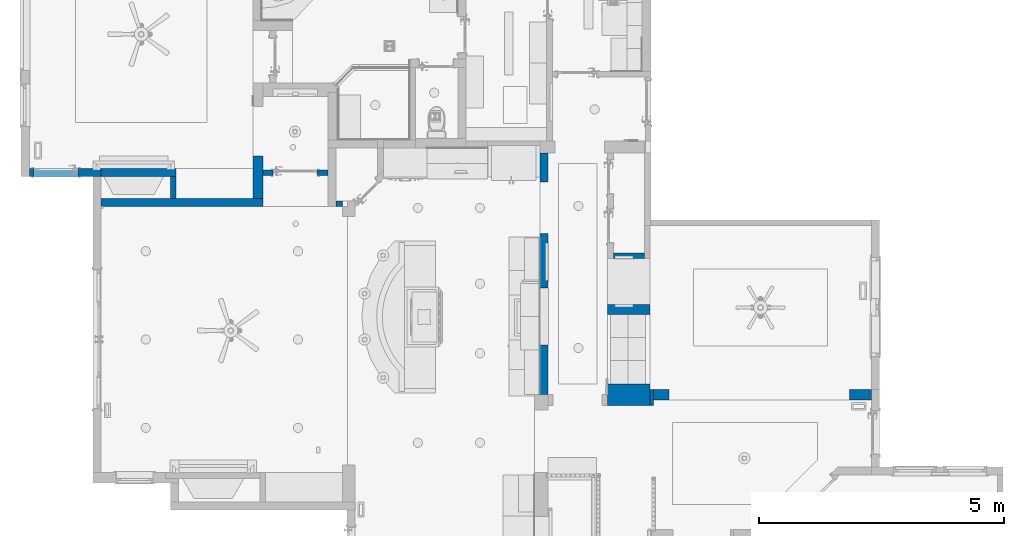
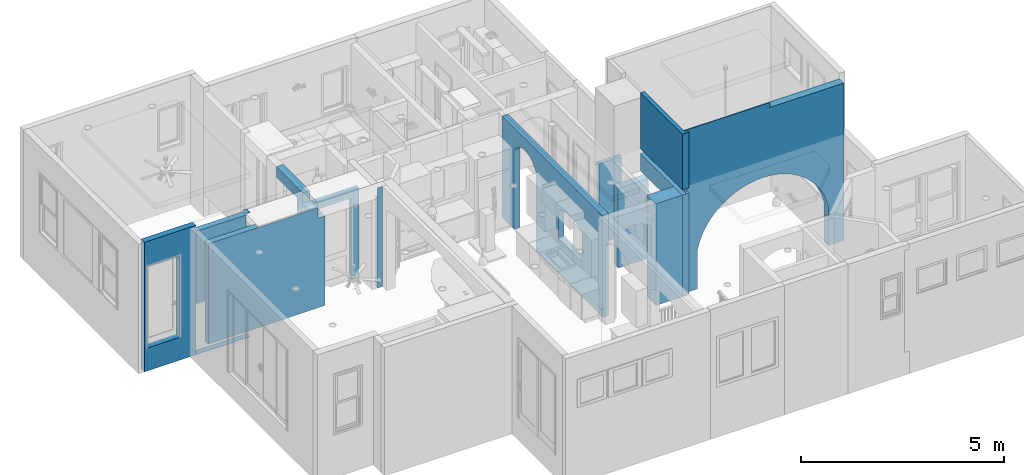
# One storey, part 7 of 77: 14 walls.
"""IFC2X3 building model written with IfcOpenShell, lengths in inches."""

from ifc_helpers import new_model, entity, si_unit, converted_unit, derived_unit, money_unit, direction, frame, origin_with_axes, place, context, subcontext, project, spatial, faceted_brep, material, type_object, element, save


model = new_model("IFC2X3")

# Units and contexts
model_context = context("Model", 3, precision=0.000393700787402, world=origin_with_axes(), true_north=direction((0.0, 1.0)))
body_context = subcontext(model_context, "Body", "Model", "MODEL_VIEW")
ifc_project = project(units=[converted_unit("LENGTHUNIT", "INCH", entity("IfcPositiveLengthMeasure", 0.0254), si_unit("LENGTHUNIT", "METRE"), dimensions=[1, 0, 0, 0, 0, 0, 0]), converted_unit("AREAUNIT", "SQUARE_FOOT", entity("IfcPositiveLengthMeasure", 0.09290304), si_unit("AREAUNIT", "SQUARE_METRE"), dimensions=[2, 0, 0, 0, 0, 0, 0]), si_unit("PLANEANGLEUNIT", "RADIAN"), si_unit("SOLIDANGLEUNIT", "STERADIAN"), money_unit("USD"), converted_unit("TIMEUNIT", "Year", entity("IfcTimeMeasure", 31556926.0), si_unit("TIMEUNIT", "SECOND"), dimensions=[0, 0, 1, 0, 0, 0, 0]), si_unit("MASSUNIT", "GRAM", prefix="KILO"), si_unit("THERMODYNAMICTEMPERATUREUNIT", "DEGREE_CELSIUS"), si_unit("LUMINOUSINTENSITYUNIT", "LUMEN"), si_unit("ENERGYUNIT", "JOULE", prefix="MEGA"), derived_unit("THERMALCONDUCTANCEUNIT", [(si_unit("POWERUNIT", "WATT"), 1), (si_unit("LENGTHUNIT", "METRE"), -1), (si_unit("THERMODYNAMICTEMPERATUREUNIT", "KELVIN"), -1)]), derived_unit("SPECIFICHEATCAPACITYUNIT", [(si_unit("ENERGYUNIT", "JOULE"), 1), (si_unit("MASSUNIT", "GRAM", prefix="KILO"), -1), (si_unit("THERMODYNAMICTEMPERATUREUNIT", "KELVIN"), -1)]), derived_unit("MASSDENSITYUNIT", [(si_unit("MASSUNIT", "GRAM", prefix="KILO"), 1), (si_unit("VOLUMEUNIT", "CUBIC_METRE"), -1)])], contexts=[model_context])

# Site, building, storey
site_placement = place(None, origin_with_axes())
site = spatial("IfcSite", under=ifc_project, at=site_placement, Name="Site", CompositionType="ELEMENT")
building_placement = place(site_placement, origin_with_axes())
building = spatial("IfcBuilding", under=site, at=building_placement, Name="Building", CompositionType="ELEMENT")
storey_placement = place(building_placement, frame((0.0, 0.0, 127.952755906), z_axis=(0.0, 0.0, 1.0), x_axis=(1.0, 0.0, 0.0)))
storey = spatial("IfcBuildingStorey", under=building, at=storey_placement, Name="Second Floor", CompositionType="ELEMENT", Elevation=127.953)

# Walls
ifc_material = material(Name="Generic - Structural")
wall_type_1 = type_object("IfcWallType", Name="Generic - Structural 205", PredefinedType="NOTDEFINED")
wall_1_placement = place(storey_placement, frame((406.739643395, 441.90717231, 0.0), z_axis=(0.0, 0.0, 1.0), x_axis=(2.1334660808e-08, -1.0, 0.0)))
element("IfcWall", 1, at=wall_1_placement, inside=storey, type_object=wall_type_1, material=ifc_material, Name="SW - 128", context=body_context, shape_type="Brep", body=[
    faceted_brep([(39.9416809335, 8.07086816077, 0.0157480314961), (39.9416809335, 8.07086577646, 105.905511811), (1.72189192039e-07, 8.07086614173, 105.905511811), (1.72189192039e-07, 8.07086614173, 118.11023622), (51.0952498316, 8.07086614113, 118.11023622), (51.0952498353, 8.07086614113, 105.905511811), (74.0343389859, 8.07086988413, 105.905511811), (74.0343389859, 8.07086988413, 0.0157480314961), (39.9416807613, -8.52142223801e-07, 0.0157480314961), (39.9416807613, 7.2738196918e-07, 105.905511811), (0.0, 0.0, 105.905511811), (0.0, 0.0, 118.11023622), (51.0675014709, -1.08950783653e-06, 118.11023622), (51.0675014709, 4.9001635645e-07, 105.905511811), (74.0355896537, 4.29907518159e-06, 105.905511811), (74.035589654, -1.57952419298e-06, 0.0157480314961)], [[[0, 1, 2, 3, 4, 5, 6, 7]], [[1, 0, 8, 9]], [[10, 2, 1, 9]], [[2, 10, 11, 3]], [[4, 3, 11, 12]], [[4, 12, 13, 5]], [[6, 5, 13, 14]], [[6, 14, 15, 7]], [[8, 0, 7, 15]], [[9, 8, 15, 14, 13, 12, 11, 10]]]),
])
wall_2_placement = place(storey_placement, frame((691.989643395, 282.41001385, 0.0), z_axis=(0.0, 0.0, 1.0), x_axis=(1.0, 0.0, 0.0)))
element("IfcWall", 2, at=wall_2_placement, inside=storey, type_object=wall_type_1, material=ifc_material, Name="SW - 018", context=body_context, shape_type="Brep", body=[
    faceted_brep([(34.0, -8.07086614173, 94.094488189), (34.0, -8.07086614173, 0.0157480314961), (34.0, 0.0, 0.0157480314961), (34.0, 0.0, 94.094488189), (0.0, -8.07086614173, 94.094488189), (0.0, -8.07086614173, 0.0157480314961), (0.0, 0.0, 0.0157480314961), (0.0, 0.0, 94.094488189)], [[[0, 1, 2, 3]], [[4, 5, 1, 0]], [[5, 6, 2, 1]], [[3, 2, 6, 7]], [[7, 4, 0, 3]], [[7, 6, 5, 4]]]),
])
wall_type_2 = type_object("IfcWallType", Name="Generic - Structural 115", PredefinedType="NOTDEFINED")
wall_3_placement = place(storey_placement, frame((344.761453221, 367.877480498, 0.0), z_axis=(0.0, 0.0, 1.0), x_axis=(-0.000154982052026, 0.99999998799, 0.0)))
element("IfcWall", 3, at=wall_3_placement, inside=storey, type_object=wall_type_2, material=ifc_material, Name="SW - 119", context=body_context, shape_type="Brep", body=[
    faceted_brep([(0.0, 4.52755905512, 105.905511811), (0.0, 4.52755905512, 0.0157480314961), (0.0, 0.0, 0.0157480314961), (0.0, 0.0, 105.905511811), (17.5303937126, 4.52755905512, 105.905511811), (17.5303937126, 4.52755905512, 0.0157480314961), (17.5296920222, 1.25044331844e-10, 0.0157480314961), (17.5296920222, 1.25044331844e-10, 105.905511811)], [[[0, 1, 2, 3]], [[4, 5, 1, 0]], [[5, 6, 2, 1]], [[3, 2, 6, 7]], [[0, 3, 7, 4]], [[7, 6, 5, 4]]]),
])
wall_4_placement = place(storey_placement, frame((466.989643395, 361.379613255, 0.0), z_axis=(0.0, 0.0, 1.0), x_axis=(1.0, 0.0, 0.0)))
element("IfcWall", 4, at=wall_4_placement, inside=storey, type_object=wall_type_2, material=ifc_material, Name="SW - 117", context=body_context, shape_type="Brep", body=[
    faceted_brep([(6.5, 4.52755905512, 0.0157480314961), (6.50000148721, 4.52755942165, 105.905511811), (11.817863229, 4.52755942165, 105.905511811), (11.817863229, 4.52755905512, 0.0157480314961), (6.5, 0.0, 0.0157480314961), (6.49999998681, 0.000292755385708, 105.905511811), (11.817863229, 0.000532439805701, 105.905511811), (11.817863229, 0.000532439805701, 118.5), (11.817863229, 0.0, 118.5), (11.817863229, 0.0, 0.0157480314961), (6.49999998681, 0.000292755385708, 118.5)], [[[0, 1, 2, 3]], [[4, 5, 1, 0]], [[5, 6, 2, 1]], [[2, 6, 7, 8, 9, 3]], [[4, 0, 3, 9]], [[8, 10, 5, 4, 9]], [[5, 10, 7, 6]], [[8, 7, 10]]]),
])
wall_5_placement = place(storey_placement, frame((691.987424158, 319.40717231, 0.0), z_axis=(0.0, 0.0, 1.0), x_axis=(0.999999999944, -1.05423358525e-05, 0.0)))
element("IfcWall", 5, at=wall_5_placement, inside=storey, type_object=wall_type_2, material=ifc_material, Name="SW - 015", context=body_context, shape_type="Brep", body=[
    faceted_brep([(29.5109208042, 0.0, 94.094488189), (29.5109208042, 0.0, 0.0157480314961), (29.5111116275, 4.52755905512, 0.0157480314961), (29.5111116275, 4.52755905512, 94.094488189), (4.52755905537, 0.0, 94.094488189), (4.52755905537, 0.0, 0.0157480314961), (4.52751132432, 4.52755905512, 0.0157480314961), (4.52751132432, 4.52755905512, 94.094488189)], [[[0, 1, 2, 3]], [[4, 5, 1, 0]], [[5, 6, 2, 1]], [[3, 2, 6, 7]], [[4, 0, 3, 7]], [[7, 6, 5, 4]]]),
])
wall_type_3 = type_object("IfcWallType", Name="Generic - Structural 215", PredefinedType="NOTDEFINED")
wall_6_placement = place(storey_placement, frame((728.989643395, 214.072267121, 0.0), z_axis=(0.0, 0.0, 1.0), x_axis=(0.999999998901, 4.687956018e-05, 0.0)))
element("IfcWall", 6, at=wall_6_placement, inside=storey, type_object=wall_type_3, material=ifc_material, Name="SW - 092", context=body_context, shape_type="Brep", body=[
    faceted_brep([(152.89009665, -8.46456692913, 62.1237879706), (155.952210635, -8.46456692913, 54.1636453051), (158.083793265, -8.46456692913, 45.905511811), (158.083793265, -8.46456692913, 0.0157480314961), (174.957662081, -8.46456692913, 0.0157480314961), (174.957662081, -8.46456692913, 0.0), (175.230181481, -8.46456692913, 0.0), (175.230181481, -8.46456692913, 125.984251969), (175.228741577, -8.46456692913, 125.984251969), (175.228741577, -8.46456692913, 186.023622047), (92.8846947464, -8.46456692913, 186.023622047), (92.8846947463, -8.46456692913, 191.929133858), (0.0, -8.46456692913, 191.929133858), (0.0, -8.46456692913, 126.0), (92.8846947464, -8.46456692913, 126.0), (92.8846947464, -8.46456692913, 120.094488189), (0.0, -8.46456692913, 120.094488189), (0.0, -8.46456692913, 0.0157480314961), (12.020801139, -8.46456692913, 0.0157480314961), (12.020801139, -8.46456692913, 45.905511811), (14.1523837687, -8.46456692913, 54.1636453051), (17.2144977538, -8.46456692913, 62.1237879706), (21.1669541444, -8.46456692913, 69.6814663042), (25.9578786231, -8.46456692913, 76.7374889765), (31.524392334, -8.46456692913, 83.1992486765), (37.7934371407, -8.46456692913, 88.9819375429), (44.6827344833, -8.46456692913, 94.009660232), (52.1018652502, -8.46456692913, 98.2164300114), (59.9534564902, -8.46456692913, 101.547034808), (68.1344593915, -8.46456692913, 103.957761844), (76.5375017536, -8.46456692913, 105.416971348), (85.052297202, -8.46456692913, 105.905511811), (93.5670926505, -8.46456692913, 105.416971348), (101.970135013, -8.46456692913, 103.957761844), (110.151137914, -8.46456692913, 101.547034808), (118.002729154, -8.46456692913, 98.2164300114), (125.421859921, -8.46456692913, 94.009660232), (132.311157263, -8.46456692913, 88.9819375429), (138.58020207, -8.46456692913, 83.1992486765), (144.146715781, -8.46456692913, 76.7374889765), (148.93764026, -8.46456692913, 69.6814663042), (152.89009665, 0.0, 62.1237879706), (155.952210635, 0.0, 54.1636453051), (158.083793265, 0.0, 45.905511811), (158.083793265, 0.0, 0.0157480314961), (174.958058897, 1.01755874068e-10, 0.0157480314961), (174.958058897, 0.0, 0.0), (175.228742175, 0.0, 0.0), (175.228742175, 1.01685938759e-10, 125.984251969), (175.22874163, 0.0, 186.023622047), (0.0, 0.0, 186.023622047), (0.0, -8.45651257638, 186.023622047), (0.0, -8.45651257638, 191.929133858), (0.0, -8.45651257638, 126.0), (0.0, 0.0, 0.0157480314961), (0.0, -8.45651257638, 120.094488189), (12.020801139, 0.0, 0.0157480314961), (12.020801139, 0.0, 45.905511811), (14.1523837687, 0.0, 54.1636453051), (17.2144977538, 0.0, 62.1237879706), (21.1669541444, 0.0, 69.6814663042), (25.9578786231, 0.0, 76.7374889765), (31.524392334, 0.0, 83.1992486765), (37.7934371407, 0.0, 88.9819375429), (44.6827344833, 0.0, 94.009660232), (52.1018652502, 0.0, 98.2164300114), (59.9534564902, 0.0, 101.547034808), (68.1344593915, 0.0, 103.957761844), (76.5375017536, 0.0, 105.416971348), (85.052297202, 0.0, 105.905511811), (93.5670926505, 0.0, 105.416971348), (101.970135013, 0.0, 103.957761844), (110.151137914, 0.0, 101.547034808), (118.002729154, 0.0, 98.2164300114), (125.421859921, 0.0, 94.009660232), (132.311157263, 0.0, 88.9819375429), (138.58020207, 0.0, 83.1992486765), (144.146715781, 0.0, 76.7374889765), (148.93764026, 0.0, 69.6814663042)], [[[0, 1, 2, 3, 4, 5, 6, 7, 8, 9, 10, 11, 12, 13, 14, 15, 16, 17, 18, 19, 20, 21, 22, 23, 24, 25, 26, 27, 28, 29, 30, 31, 32, 33, 34, 35, 36, 37, 38, 39, 40]], [[1, 0, 41, 42]], [[2, 1, 42, 43]], [[3, 2, 43, 44]], [[3, 44, 45, 4]], [[45, 46, 5, 4]], [[5, 46, 47, 6]], [[47, 48, 7, 6]], [[48, 8, 7]], [[49, 9, 8, 48]], [[9, 49, 50, 51, 10]], [[52, 11, 10, 51]], [[12, 11, 52]], [[53, 13, 12, 52, 51, 50, 54, 17, 16, 55]], [[53, 14, 13]], [[15, 14, 53, 55]], [[55, 16, 15]], [[56, 18, 17, 54]], [[19, 18, 56, 57]], [[20, 19, 57, 58]], [[21, 20, 58, 59]], [[22, 21, 59, 60]], [[23, 22, 60, 61]], [[24, 23, 61, 62]], [[25, 24, 62, 63]], [[26, 25, 63, 64]], [[27, 26, 64, 65]], [[28, 27, 65, 66]], [[29, 28, 66, 67]], [[30, 29, 67, 68]], [[31, 30, 68, 69]], [[32, 31, 69, 70]], [[33, 32, 70, 71]], [[34, 33, 71, 72]], [[35, 34, 72, 73]], [[36, 35, 73, 74]], [[37, 36, 74, 75]], [[38, 37, 75, 76]], [[39, 38, 76, 77]], [[40, 39, 77, 78]], [[0, 40, 78, 41]], [[57, 56, 54, 50, 49, 48, 47, 46, 45, 44, 43, 42, 41, 78, 77, 76, 75, 74, 73, 72, 71, 70, 69, 68, 67, 66, 65, 64, 63, 62, 61, 60, 59, 58]]]),
])
wall_type_4 = type_object("IfcWallType", Name="Generic Wall 6.5\" 165", PredefinedType="NOTDEFINED")
wall_7_placement = place(storey_placement, frame((344.75772905, 391.90717231, -27.0), z_axis=(0.0, 0.0, 1.0), x_axis=(-1.0, 0.0, 0.0)))
element("IfcWall", 7, at=wall_7_placement, inside=storey, type_object=wall_type_4, material=ifc_material, Name="SW - 120", context=body_context, shape_type="Brep", body=[
    faceted_brep([(7.3889302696, 0.0, 60.0), (60.2680856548, 0.0, 60.0), (60.2680856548, -1.32635851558e-06, 145.503937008), (4.51808672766, 7.90382530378e-05, 145.503937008), (4.51808672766, 7.90382530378e-05, 147.047244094), (0.0, 0.0, 147.047244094), (0.0, 0.0, 132.905511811), (0.0, 0.0, 27.0157480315), (7.3889302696, 0.0, 27.0157480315), (12.0180860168, 0.0, 81.0), (12.0180860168, 0.0, 132.968503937), (58.0810781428, 0.0, 132.968503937), (58.0810781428, 0.0, 81.0), (3.4608576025, -1.32635851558e-06, 72.303970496), (2.50716198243, -1.32635851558e-06, 72.7016164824), (1.4834038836, -1.32635851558e-06, 72.8415343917), (1.4834038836, -1.32635851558e-06, 73.8503937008), (3.92955300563, -1.32635851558e-06, 73.8503937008), (7.3889302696, 2.95734040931e-08, 69.1225848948), (7.3889302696, 2.95734040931e-08, 65.779519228), (6.65073947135, -1.32635851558e-06, 65.779519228), (6.55321137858, -1.32635851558e-06, 67.1452070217), (6.25739947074, -1.32635851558e-06, 68.4820354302), (5.7937654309, -1.32635851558e-06, 69.6747248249), (5.13726191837, -1.32635851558e-06, 70.7731180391), (4.38040161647, -1.32635851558e-06, 71.6276200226), (7.3889302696, 6.5, 60.0), (60.2680856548, 6.5, 60.0), (60.2680856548, 6.5, 145.503937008), (4.51808672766, 6.5, 145.503937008), (4.51808672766, 0.0247138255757, 145.503937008), (4.51808672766, 0.0247138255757, 146.881889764), (4.51808672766, 6.5, 146.881889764), (4.51808672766, 6.5, 147.047244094), (0.0, 6.5, 147.047244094), (0.0, 6.5, 146.881889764), (0.0, 0.0230347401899, 146.881889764), (0.0, 0.0230347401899, 132.905511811), (-0.00100738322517, 6.5, 132.905511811), (-0.00100738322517, 6.5, 27.0157480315), (7.3889302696, 6.5, 27.0157480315), (12.0180860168, 5.5, 81.0), (12.0180860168, 5.5, 132.968503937), (58.0810781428, 5.5, 132.968503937), (58.0810781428, 5.5, 81.0), (2.5071622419, 0.719657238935, 72.7016164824), (3.46085786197, 0.719656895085, 72.303970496), (1.48340414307, 0.719657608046, 72.8415343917), (1.48340414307, 0.719657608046, 73.8503937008), (3.9295532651, 0.719656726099, 73.8503937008), (7.38893052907, 0.719655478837, 69.1225848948), (7.38893052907, 0.719655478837, 65.779519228), (6.65073973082, 0.719655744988, 65.779519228), (6.55321163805, 0.719655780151, 67.1452070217), (6.25739973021, 0.719655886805, 68.4820354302), (5.79376569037, 0.719656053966, 69.6747248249), (5.13726217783, 0.719656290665, 70.7731180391), (4.38040187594, 0.719656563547, 71.6276200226), (0.0, 6.5, 132.905511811), (4.51808565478, 6.5, 132.905511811), (4.51808565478, 0.0247138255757, 132.905511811)], [[[0, 1, 2, 3, 4, 5, 6, 7, 8], [9, 10, 11, 12], [13, 14, 15, 16, 17, 18, 19, 20, 21, 22, 23, 24, 25]], [[0, 26, 27, 1]], [[1, 27, 28, 2]], [[29, 30, 3, 2, 28]], [[31, 32, 33, 4, 3, 30]], [[34, 5, 4, 33]], [[34, 35, 36, 37, 6, 5]], [[6, 38, 39, 7]], [[40, 8, 7, 39]], [[26, 0, 8, 40]], [[9, 41, 42, 10]], [[10, 42, 43, 11]], [[11, 43, 44, 12]], [[12, 44, 41, 9]], [[45, 14, 13, 46]], [[47, 15, 14, 45]], [[48, 16, 15, 47]], [[49, 17, 16, 48]], [[50, 18, 17, 49]], [[50, 51, 19, 18]], [[52, 20, 19, 51]], [[53, 21, 20, 52]], [[54, 22, 21, 53]], [[55, 23, 22, 54]], [[56, 24, 23, 55]], [[57, 25, 24, 56]], [[46, 13, 25, 57]], [[58, 59, 29, 28, 27, 26, 40, 39, 38]], [[59, 60, 30, 29]], [[36, 35, 32, 31]], [[35, 34, 33, 32]], [[37, 36, 31, 30, 60]], [[38, 6, 37, 60, 59, 58]], [[43, 42, 41, 44]], [[48, 47, 45, 46, 57, 56, 55, 54, 53, 52, 51, 50, 49]]]),
    faceted_brep([(60.2680856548, 0.0, 0.0), (60.2680856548, 0.0, 0.0472440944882), (0.0, 0.0, 0.0472440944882), (0.0, 0.0, 0.0), (60.2680856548, 6.5, 0.0), (60.2680856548, 6.5, 0.0472440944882), (0.0, 6.5, 0.0472440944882), (0.0, 6.5, 0.0)], [[[0, 1, 2, 3]], [[4, 5, 1, 0]], [[5, 6, 2, 1]], [[3, 2, 6, 7]], [[7, 4, 0, 3]], [[7, 6, 5, 4]]]),
])
wall_8_placement = place(storey_placement, frame((414.810514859, 367.872833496, 0.0), z_axis=(0.0, 0.0, 1.0), x_axis=(-0.99999998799, -0.00015498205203, 0.0)))
element("IfcWall", 8, at=wall_8_placement, inside=storey, type_object=wall_type_4, material=ifc_material, Name="SW - 118", context=body_context, shape_type="Brep", body=[
    faceted_brep([(130.477027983, 0.0, 118.5), (74.5708723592, 0.0, 118.5), (74.5708723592, 0.0, 105.905511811), (3.98309081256e-06, -6.1710916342e-10, 105.905511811), (0.0, 0.0, 0.0157480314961), (130.362809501, 0.0, 0.0157480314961), (130.362809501, 0.0, 0.0), (130.477027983, 0.0, 0.0), (8.07187183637, 6.46433123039, 118.5), (74.5718726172, 6.45402492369, 118.5), (130.478058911, 6.5, 118.5), (8.07187184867, 6.5, 118.5), (74.5718726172, 6.45402492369, 105.905511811), (0.0, 6.5, 105.905511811), (8.07187183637, 6.46433123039, 105.905511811), (8.07187184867, 6.5, 105.905511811), (0.0, 6.5, 0.0157480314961), (130.363816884, 6.5, 0.0157480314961), (130.363816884, 6.5, 0.0), (130.478058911, 6.5, 0.0)], [[[0, 1, 2, 3, 4, 5, 6, 7]], [[8, 9, 1, 0, 10, 11]], [[12, 2, 1, 9]], [[13, 3, 2, 12, 14, 15]], [[4, 3, 13, 16]], [[5, 4, 16, 17]], [[18, 6, 5, 17]], [[7, 6, 18, 19]], [[19, 10, 0, 7]], [[12, 9, 8, 14]], [[16, 13, 15, 11, 10, 19, 18, 17]], [[15, 14, 8, 11]]]),
])
wall_9_placement = place(storey_placement, frame((643.982421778, 413.904050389, 0.0), z_axis=(0.0, 0.0, 1.0), x_axis=(-8.3130789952e-05, -0.999999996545, 0.0)))
element("IfcWall", 9, at=wall_9_placement, inside=storey, type_object=wall_type_4, material=ifc_material, Name="SW - 105", context=body_context, shape_type="Brep", body=[
    faceted_brep([(38.1369671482, 0.0, 100.292469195), (35.1634380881, 0.0, 97.3340097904), (32.7468788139, 0.0, 93.905511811), (32.7468788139, 0.0, 0.0157480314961), (9.44881893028, 0.0, 0.0157480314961), (9.44881893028, 0.0, 120.078740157), (204.032311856, 0.0, 120.078740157), (204.032311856, 0.0, 0.0157480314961), (74.4791622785, 0.0, 0.0157480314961), (74.4791622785, 0.0, 93.905511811), (72.0626030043, 0.0, 97.3340097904), (69.0890739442, 0.0, 100.292469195), (65.6483422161, 0.0, 102.691577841), (61.8442792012, 0.0, 104.458909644), (57.7917247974, 0.0, 105.541111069), (53.6130205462, 0.0, 105.905511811), (49.4343162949, 0.0, 105.541111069), (45.3817618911, 0.0, 104.458909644), (41.5776988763, 0.0, 102.691577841), (156.70743138, 0.0, 78.4359993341), (148.967384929, 0.0, 80.2843488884), (141.033982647, 0.0, 80.905511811), (133.100580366, 0.0, 80.2843488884), (125.360533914, 0.0, 78.4359993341), (118.002486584, 0.0, 75.405511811), (118.002486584, 0.0, 40.9448818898), (164.06547871, 0.0, 40.9448818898), (164.06547871, 0.0, 75.405511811), (38.1369671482, -6.5, 100.292469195), (35.1634380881, -6.5, 97.3340097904), (32.7468788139, -6.5, 93.905511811), (32.7468788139, -6.5, 0.0157480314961), (9.44935926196, -6.5, 0.0157480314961), (9.44935926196, -6.5, 120.078740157), (74.4791622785, -6.5, 120.078740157), (204.032850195, -6.4963023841, 120.078740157), (204.032850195, -6.4963023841, 118.503937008), (204.032850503, -6.50000000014, 118.503937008), (204.032852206, -6.5, 0.0157480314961), (74.4791622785, -6.5, 0.0157480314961), (74.4791622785, -6.5, 93.905511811), (72.0626030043, -6.5, 97.3340097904), (69.0890739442, -6.5, 100.292469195), (65.6483422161, -6.5, 102.691577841), (61.8442792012, -6.5, 104.458909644), (57.7917247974, -6.5, 105.541111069), (53.6130205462, -6.5, 105.905511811), (49.4343162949, -6.5, 105.541111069), (45.3817618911, -6.5, 104.458909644), (41.5776988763, -6.5, 102.691577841), (156.70743138, -6.5, 78.4359993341), (148.967384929, -6.5, 80.2843488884), (141.033982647, -6.5, 80.905511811), (133.100580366, -6.5, 80.2843488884), (125.360533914, -6.5, 78.4359993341), (118.002486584, -6.5, 75.405511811), (118.002486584, -6.5, 40.9448818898), (164.06547871, -6.5, 40.9448818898), (164.06547871, -6.5, 75.405511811), (74.4791622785, -6.5, 118.503937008), (112.890605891, -6.50000000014, 105.504011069), (114.389752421, -6.50000000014, 104.004907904), (114.389752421, -6.50000000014, 102.94488189), (114.06985202, -6.50000000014, 102.94488189), (113.960244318, -6.50000000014, 103.636852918), (113.64217039, -6.50000000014, 104.261085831), (113.146765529, -6.50000000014, 104.756476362), (112.522523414, -6.50000000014, 105.074532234), (111.830549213, -6.50000000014, 105.184119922), (111.830549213, -6.50000000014, 105.504011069), (112.890605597, -6.49646896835, 105.504011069), (114.389752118, -6.49634434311, 104.004907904), (114.389752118, -6.49634434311, 102.94488189), (114.069851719, -6.49637093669, 102.94488189), (113.960244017, -6.49638004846, 103.636852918), (113.642170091, -6.4964064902, 104.261085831), (113.146765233, -6.4964476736, 104.756476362), (112.522523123, -6.49649956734, 105.074532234), (111.830548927, -6.4965570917, 105.184119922), (111.830548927, -6.4965570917, 105.504011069)], [[[0, 1, 2, 3, 4, 5, 6, 7, 8, 9, 10, 11, 12, 13, 14, 15, 16, 17, 18], [19, 20, 21, 22, 23, 24, 25, 26, 27]], [[1, 0, 28, 29]], [[2, 1, 29, 30]], [[3, 2, 30, 31]], [[3, 31, 32, 4]], [[4, 32, 33, 5]], [[6, 5, 33, 34, 35]], [[6, 35, 36, 37, 38, 7]], [[39, 8, 7, 38]], [[9, 8, 39, 40]], [[10, 9, 40, 41]], [[11, 10, 41, 42]], [[12, 11, 42, 43]], [[13, 12, 43, 44]], [[14, 13, 44, 45]], [[15, 14, 45, 46]], [[16, 15, 46, 47]], [[17, 16, 47, 48]], [[18, 17, 48, 49]], [[0, 18, 49, 28]], [[19, 50, 51, 20]], [[20, 51, 52, 21]], [[21, 52, 53, 22]], [[22, 53, 54, 23]], [[23, 54, 55, 24]], [[24, 55, 56, 25]], [[25, 56, 57, 26]], [[26, 57, 58, 27]], [[27, 58, 50, 19]], [[40, 39, 38, 37, 59, 34, 33, 32, 31, 30, 29, 28, 49, 48, 47, 46, 45, 44, 43, 42, 41], [60, 61, 62, 63, 64, 65, 66, 67, 68, 69], [51, 50, 58, 57, 56, 55, 54, 53, 52]], [[35, 34, 59, 36]], [[37, 36, 59]], [[60, 70, 71, 61]], [[61, 71, 72, 62]], [[62, 72, 73, 63]], [[63, 73, 74, 64]], [[64, 74, 75, 65]], [[65, 75, 76, 66]], [[66, 76, 77, 67]], [[67, 77, 78, 68]], [[68, 78, 79, 69]], [[69, 79, 70, 60]], [[76, 75, 74, 73, 72, 71, 70, 79, 78, 77]]]),
])
wall_10_placement = place(storey_placement, frame((284.438747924, 391.840243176, -26.968503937), z_axis=(0.0, 0.0, 1.0), x_axis=(-1.0, 0.0, 0.0)))
element("IfcWall", 10, at=wall_10_placement, inside=storey, type_object=wall_type_4, material=ifc_material, Name="SW - 120", context=body_context, shape_type="Brep", body=[
    faceted_brep([(57.8008057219, 6.5, 152.952755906), (57.8008057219, 6.5, 0.0), (0.0, 6.5, 0.0), (0.0, 6.5, 145.472440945), (0.105133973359, 6.5, 145.472440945), (0.105133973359, 6.5, 151.377952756), (0.0, 6.5, 151.377952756), (0.0, 6.5, 152.952755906), (54.1780923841, 6.5, 26.968503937), (54.1780923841, 6.5, 123.42519685), (18.7450215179, 6.5, 123.42519685), (18.7450215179, 6.5, 26.968503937), (57.8008057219, 0.0, 152.952755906), (57.8008057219, 0.0, 0.0), (0.0, 0.0, 0.0), (0.0, 0.0, 145.472440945), (0.105171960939, 0.0, 145.472440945), (0.105171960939, 0.0, 151.377952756), (0.0, 0.0, 151.377952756), (0.0, 0.0, 152.952755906), (54.1780923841, 0.0, 26.968503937), (54.1780923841, 0.0, 123.42519685), (18.7450215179, 0.0, 123.42519685), (18.7450215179, 0.0, 26.968503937), (2.80954953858, 0.0, 70.7416219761), (2.15304602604, 0.0, 69.6432287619), (1.6894119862, 0.0, 68.4505393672), (1.39360007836, 0.0, 67.1137109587), (1.29607198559, 0.0, 65.748023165), (0.557881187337, 0.0, 65.748023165), (0.557881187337, 0.0, 69.0910888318), (4.01725845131, 0.0, 73.8188976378), (6.46340757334, 0.0, 73.8188976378), (6.46340757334, 0.0, 72.8100383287), (5.43964947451, 0.0, 72.6701204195), (4.48595385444, 0.0, 72.272474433), (3.56640984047, 0.0, 71.5961239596), (2.80954959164, 1.15064465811, 70.7416219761), (2.1530460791, 1.15064468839, 69.6432287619), (1.68941203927, 1.15064470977, 68.4505393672), (1.39360013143, 1.15064472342, 67.1137109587), (1.29607203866, 1.15064472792, 65.748023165), (0.557881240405, 1.15064476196, 65.748023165), (0.557881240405, 1.15064476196, 69.0910888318), (4.01725850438, 1.15064460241, 73.8188976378), (6.46340762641, 1.15064448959, 73.8188976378), (6.46340762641, 1.15064448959, 72.8100383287), (5.43964952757, 1.15064453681, 72.6701204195), (4.48595390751, 1.1506445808, 72.272474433), (3.56640989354, 1.15064462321, 71.5961239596)], [[[0, 1, 2, 3, 4, 5, 6, 7], [8, 9, 10, 11]], [[1, 0, 12, 13]], [[2, 1, 13, 14]], [[14, 15, 3, 2]], [[4, 3, 15, 16]], [[4, 16, 17, 5]], [[5, 17, 18, 6]], [[7, 6, 18, 19]], [[19, 12, 0, 7]], [[20, 21, 9, 8]], [[21, 22, 10, 9]], [[22, 23, 11, 10]], [[23, 20, 8, 11]], [[13, 12, 19, 18, 17, 16, 15, 14], [24, 25, 26, 27, 28, 29, 30, 31, 32, 33, 34, 35, 36], [20, 23, 22, 21]], [[25, 24, 37, 38]], [[26, 25, 38, 39]], [[27, 26, 39, 40]], [[28, 27, 40, 41]], [[29, 28, 41, 42]], [[30, 29, 42, 43]], [[31, 30, 43, 44]], [[32, 31, 44, 45]], [[33, 32, 45, 46]], [[34, 33, 46, 47]], [[35, 34, 47, 48]], [[36, 35, 48, 49]], [[24, 36, 49, 37]], [[37, 49, 48, 47, 46, 45, 44, 43, 42, 41, 40, 39, 38]]]),
])
wall_type_5 = type_object("IfcWallType", Name="Generic Wall 4.5\" 114", PredefinedType="NOTDEFINED")
wall_11_placement = place(storey_placement, frame((725.989643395, 282.41001385, 0.0), z_axis=(0.0, 0.0, 1.0), x_axis=(0.0, -1.0, 0.0)))
element("IfcWall", 11, at=wall_11_placement, inside=storey, type_object=wall_type_5, material=ifc_material, Name="W-03", context=body_context, shape_type="Brep", body=[
    faceted_brep([(63.9541766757, -4.5, 0.0157480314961), (63.9541766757, -4.5, 94.094488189), (63.9541766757, 0.0, 94.094488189), (63.9541766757, 0.0, 0.0157480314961), (64.073707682, -4.5, 0.0157480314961), (64.073707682, -4.5, 94.094488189), (64.073707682, 0.0, 94.094488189), (64.073707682, 0.0, 0.0157480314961)], [[[0, 1, 2, 3]], [[4, 5, 1, 0]], [[5, 6, 2, 1]], [[3, 2, 6, 7]], [[4, 0, 3, 7]], [[7, 6, 5, 4]]]),
    faceted_brep([(81.0028415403, 0.0, 192.0), (81.0028415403, 0.0, 126.0), (76.7941397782, 0.0, 126.0), (-2.34166841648e-06, 3.74764856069e-06, 126.0), (0.0, 0.0, 192.0), (81.0028415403, -4.5, 192.0), (81.0028415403, -4.5, 126.0), (-2.34166845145e-06, -4.5, 126.0), (0.0, -4.5, 192.0)], [[[0, 1, 2, 3, 4]], [[5, 6, 1, 0]], [[3, 2, 1, 6, 7]], [[4, 3, 7, 8]], [[5, 0, 4, 8]], [[7, 6, 5, 8]]]),
    faceted_brep([(63.9541766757, 0.0, 100.0), (8.04866486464, 0.0, 100.0), (-6.70553726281e-08, 0.0, 100.0), (-2.34166841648e-06, 3.74764856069e-06, 120.094488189), (76.7941397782, 0.0, 120.094488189), (81.0028415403, 0.0, 120.094488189), (81.0028415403, 0.0, 120.078740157), (64.073707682, 0.0, 120.078740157), (64.073707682, 0.0, 100.0), (63.9541766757, -4.5, 100.0), (8.04866486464, -4.5, 100.0), (-6.70554075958e-08, -4.5, 100.0), (-2.34166845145e-06, -4.5, 120.094488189), (81.0028415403, -4.5, 120.094488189), (81.0028415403, -4.5, 120.078740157), (64.073707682, -4.5, 120.078740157), (64.073707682, -4.5, 100.0)], [[[0, 1, 2, 3, 4, 5, 6, 7, 8]], [[9, 10, 1, 0]], [[10, 11, 2, 1]], [[3, 2, 11, 12]], [[12, 13, 5, 4, 3]], [[6, 5, 13, 14]], [[14, 15, 7, 6]], [[15, 16, 8, 7]], [[16, 9, 0, 8]], [[12, 11, 10, 9, 16, 15, 14, 13]]]),
])
wall_12_placement = place(storey_placement, frame((406.739644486, 386.31192265, 0.0), z_axis=(0.0, 0.0, 1.0), x_axis=(0.999999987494, 0.000158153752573, 0.0)))
element("IfcWall", 12, at=wall_12_placement, inside=storey, type_object=wall_type_5, material=ifc_material, Name="SW - 115", context=body_context, shape_type="Brep", body=[
    faceted_brep([(16.1442023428, 0.0, 0.0157480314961), (16.1442023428, 0.0, 96.4566929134), (51.5772732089, 0.0, 96.4566929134), (51.5772732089, 0.0, 0.0157480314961), (60.2499996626, 0.0, 0.0157480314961), (60.2499996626, 0.0, 105.905511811), (8.07086633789, 0.0, 105.905511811), (8.07086633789, 0.0, 0.0157480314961), (16.1442023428, 4.5, 0.0157480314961), (16.1442023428, 4.5, 96.4566929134), (51.5772732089, 4.5, 96.4566929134), (51.5772732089, 4.5, 0.0157480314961), (60.2507113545, 4.5, 0.0157480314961), (60.2507113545, 4.5, 105.905511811), (8.07157793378, 4.5, 105.905511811), (8.07157793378, 4.5, 0.0157480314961)], [[[0, 1, 2, 3, 4, 5, 6, 7]], [[1, 0, 8, 9]], [[2, 1, 9, 10]], [[3, 2, 10, 11]], [[3, 11, 12, 4]], [[4, 12, 13, 5]], [[5, 13, 14, 6]], [[15, 7, 6, 14]], [[8, 0, 7, 15]], [[9, 8, 15, 14, 13, 12, 11, 10]]]),
])
wall_type_6 = type_object("IfcWallType", Name="Generic - Structural 322", PredefinedType="NOTDEFINED")
wall_13_placement = place(storey_placement, frame((725.989643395, 214.072267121, 0.0), z_axis=(0.0, 0.0, 1.0), x_axis=(1.0, 0.0, 0.0)))
element("IfcWall", 13, at=wall_13_placement, inside=storey, type_object=wall_type_6, material=ifc_material, Name="SW - 020", context=body_context, shape_type="Brep", body=[
    faceted_brep([(0.0, 0.0, 0.0157480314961), (0.0, 0.0, 186.023622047), (3.0, 0.0, 186.023622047), (3.0, 0.0, 0.0157480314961), (0.0, -8.45639304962, 191.929133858), (0.0, -8.45639304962, 186.023622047), (0.0, -12.6650948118, 0.0157480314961), (0.0, -12.6650948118, 120.078740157), (0.0, -12.6650948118, 120.094488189), (0.0, -8.45639304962, 120.094488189), (0.0, -8.45639304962, 126.0), (0.0, -12.6650948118, 126.0), (0.0, -12.6650948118, 191.929133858), (3.0, -8.4565125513, 186.023622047), (3.0, -8.4565125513, 191.929133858), (3.0, -12.6771653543, 191.929133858), (3.0, -12.6771653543, 126.0), (3.0, -8.4565125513, 126.0), (3.0, -8.4565125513, 120.094488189), (3.0, -12.6771653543, 120.094488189), (3.0, -12.6771653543, 0.0157480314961), (-4.5, -12.6771653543, 0.0157480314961), (-4.5, -12.6650948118, 0.0157480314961), (-4.5, -12.6650948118, 120.078740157), (-4.5, -12.6650948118, 120.094488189), (-4.5, -12.6771653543, 120.094488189), (-4.5, -12.6771653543, 126.0), (-4.5, -12.6650948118, 126.0), (-4.5, -12.6650948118, 191.929133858), (-4.5, -12.6771653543, 191.929133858)], [[[0, 1, 2, 3]], [[4, 5, 1, 0, 6, 7, 8, 9, 10, 11, 12]], [[5, 13, 2, 1]], [[2, 13, 14, 15, 16, 17, 18, 19, 20, 3]], [[6, 0, 3, 20, 21, 22]], [[5, 4, 14, 13]], [[23, 24, 8, 7, 6, 22]], [[25, 19, 18, 9, 8, 24]], [[9, 18, 17, 10]], [[10, 17, 16, 26, 27, 11]], [[12, 11, 27, 28]], [[15, 14, 4, 12, 28, 29]], [[29, 26, 16, 15]], [[20, 19, 25, 21]], [[21, 25, 24, 23, 22]], [[28, 27, 26, 29]]]),
])
wall_type_7 = type_object("IfcWallType", Name="Generic - Structural 430", PredefinedType="NOTDEFINED")
wall_14_placement = place(storey_placement, frame((691.989643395, 201.40717231, 0.0), z_axis=(0.0, 0.0, 1.0), x_axis=(1.0, 0.0, 0.0)))
element("IfcWall", 14, at=wall_14_placement, inside=storey, type_object=wall_type_7, material=ifc_material, Name="SW - 020", context=body_context, shape_type="Brep", body=[
    faceted_brep([(34.0, 16.9291338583, 94.094488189), (34.0, 8.53125006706, 94.094488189), (34.0, 8.53125006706, 100.0), (34.0, 16.9291338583, 100.0), (34.0, 16.9291338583, 120.078740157), (34.0, 0.0, 120.078740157), (34.0, 0.0, 0.0157480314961), (34.0, 16.9291338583, 0.0157480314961), (0.0, 8.53125006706, 94.094488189), (0.0, 16.9291338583, 94.094488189), (0.0, 8.53125006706, 100.0), (0.0, 16.9291338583, 100.0), (0.0, 16.9291338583, 120.078740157), (0.0, 0.0, 120.078740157), (0.0, 0.0, 0.0157480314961), (0.0, 16.9291338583, 0.0157480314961)], [[[0, 1, 2, 3, 4, 5, 6, 7]], [[8, 1, 0, 9]], [[10, 2, 1, 8]], [[10, 11, 3, 2]], [[4, 3, 11, 12]], [[4, 12, 13, 5]], [[13, 14, 6, 5]], [[14, 15, 7, 6]], [[15, 9, 0, 7]], [[10, 8, 9, 15, 14, 13, 12, 11]]]),
])

save(model, "model.ifc")
